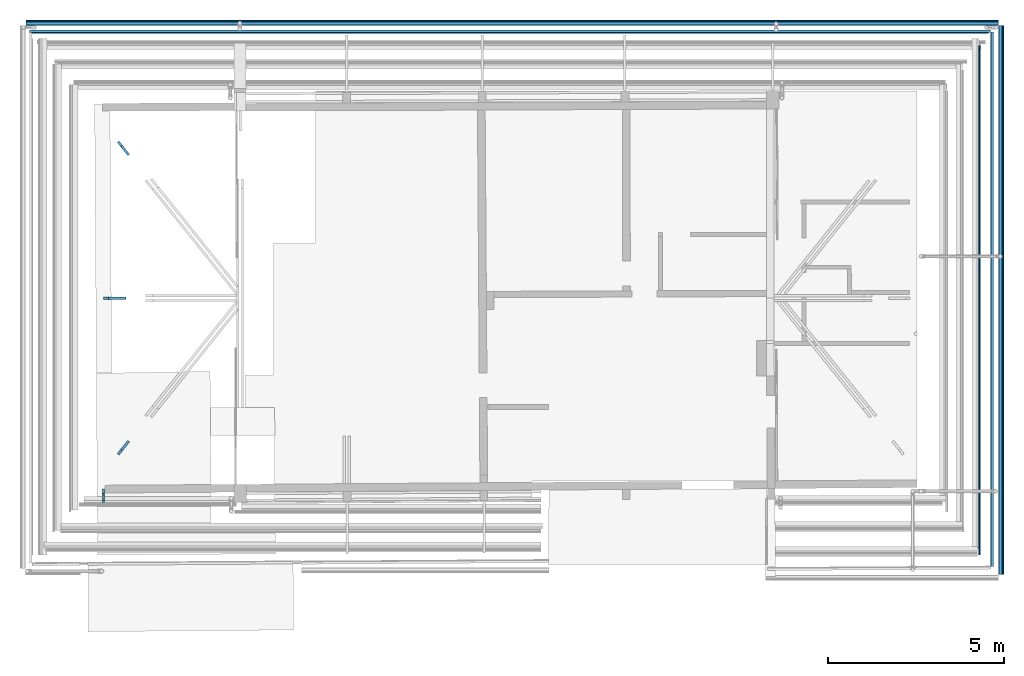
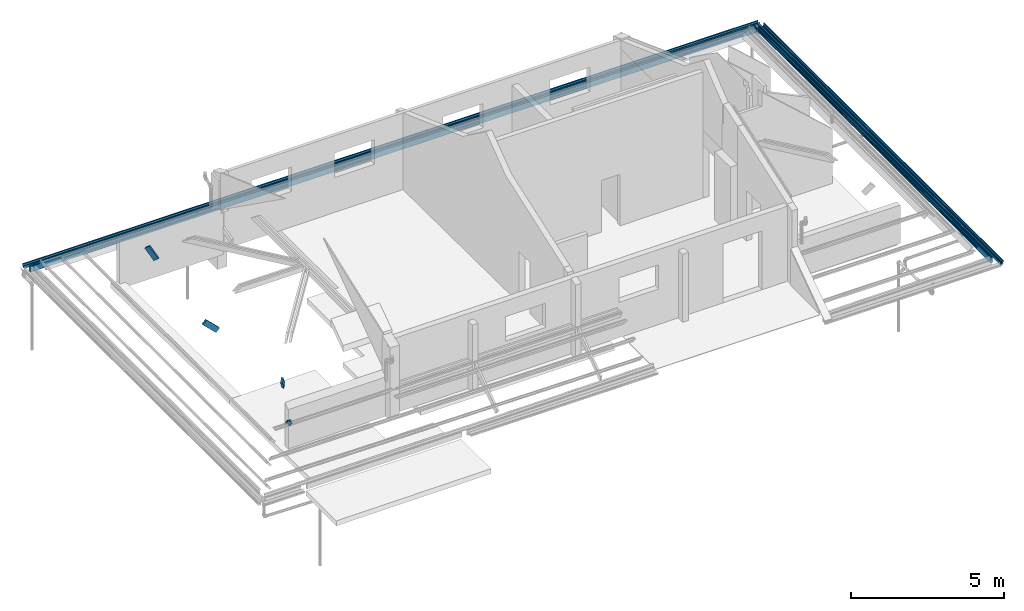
# One storey, part 6 of 15: 14 beams.
"""IFC2X3 building model written with IfcOpenShell, lengths in centimetres."""

from ifc_helpers import new_model, entity, si_unit, converted_unit, direction, frame, frame_2d, origin, place, context, subcontext, project, spatial, polyline, circle_curve, parameter, trimmed, segment, composite_curve, rectangle, outline, extrude, material, type_object, element, save


model = new_model("IFC2X3")

# Units and contexts
model_context = context("Model", 3, precision=0.001, world=frame((0.0, 0.0, 13090.0)), true_north=direction((6.123233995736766e-17, 1.0)))
body_context = subcontext(model_context, "Body", "Model", "MODEL_VIEW")
ifc_project = project(units=[si_unit("LENGTHUNIT", "METRE", prefix="CENTI"), si_unit("AREAUNIT", "SQUARE_METRE"), si_unit("VOLUMEUNIT", "CUBIC_METRE"), converted_unit("PLANEANGLEUNIT", "DEGREE", entity("IfcPlaneAngleMeasure", 0.017453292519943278), si_unit("PLANEANGLEUNIT", "RADIAN"), dimensions=[0, 0, 0, 0, 0, 0, 0])], contexts=[model_context])

# Site, building, storey
site_placement = place(None, origin())
site = spatial("IfcSite", under=ifc_project, at=site_placement, Name="Default", CompositionType="ELEMENT")
building_placement = place(site_placement, origin())
building = spatial("IfcBuilding", under=site, at=building_placement, Name="e 39 logements et 22 maisons relais", CompositionType="ELEMENT")
storey_placement = place(building_placement, frame((0.0, 0.0, 340.0)))
storey = spatial("IfcBuildingStorey", under=building, at=storey_placement, Name="R+1", CompositionType="ELEMENT", Elevation=339.99999999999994)

# Beams
ifc_material_1 = material(Name="Bois - Bois de construction de dimensions courantes")
beam_type_1 = type_object("IfcBeamType", Name="Poutre - Bois de construction de dimensions courantes:70 220", PredefinedType="BEAM")
beam_1_placement = place(storey_placement, frame((-570.9302602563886, -601.7941531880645, 121.56476762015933), z_axis=(0.0, 0.0, 1.0), x_axis=(-1.0, 0.0, 0.0)))
element("IfcBeam", 1, at=beam_1_placement, inside=storey, type_object=beam_type_1, material=ifc_material_1, Name="Poutre - Bois de construction de dimensions courantes:70 220", ObjectType="Poutre - Bois de construction de dimensions courantes:70 220", context=body_context, shape_type="SweptSolid", body=[
    extrude(rectangle(XDim=22.00000000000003, YDim=7.000000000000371, at=frame_2d((-2.7977620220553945e-14, -5.3290705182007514e-14), x_axis=(0.0, 1.0))), frame((726.5657698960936, -6.387732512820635, -8.955270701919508), z_axis=(1.0, 0.0, 0.0), x_axis=(0.0, -0.8141155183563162, 0.5807029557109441)), (0.0, 0.0, 1.0), 6.234676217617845),
])
beam_2_placement = place(storey_placement, frame((-570.9302602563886, -595.6053624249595, 125.9791891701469), z_axis=(0.0, 0.0, 1.0), x_axis=(-1.0, 0.0, 0.0)))
element("IfcBeam", 2, at=beam_2_placement, inside=storey, type_object=beam_type_1, material=ifc_material_1, Name="Poutre - Bois de construction de dimensions courantes:70 220", ObjectType="Poutre - Bois de construction de dimensions courantes:70 220", context=body_context, shape_type="SweptSolid", body=[
    extrude(rectangle(XDim=22.00000000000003, YDim=7.000000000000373, at=frame_2d((-6.017408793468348e-14, -7.993605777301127e-15), x_axis=(0.0, 1.0))), frame((726.5657698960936, -6.387732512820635, -8.955270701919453), z_axis=(1.0, 0.0, 0.0), x_axis=(0.0, -0.8141155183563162, 0.5807029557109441)), (0.0, 0.0, 1.0), 6.234676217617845),
])
beam_3_placement = place(storey_placement, frame((-570.9302602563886, -581.995353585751, 115.30480714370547), z_axis=(0.0, 0.0, 1.0), x_axis=(-1.0, 0.0, 0.0)))
element("IfcBeam", 3, at=beam_3_placement, inside=storey, type_object=beam_type_1, material=ifc_material_1, Name="Poutre - Bois de construction de dimensions courantes:70 220", ObjectType="Poutre - Bois de construction de dimensions courantes:70 220", context=body_context, shape_type="SweptSolid", body=[
    extrude(rectangle(XDim=22.00000000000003, YDim=7.000000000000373, at=frame_2d((-6.017408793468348e-14, -7.993605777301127e-15), x_axis=(0.0, 1.0))), frame((726.5657698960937, -6.387732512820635, -8.955270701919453), z_axis=(1.0, 0.0, 0.0), x_axis=(0.0, -0.8141155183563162, 0.5807029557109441)), (0.0, 0.0, 1.0), 6.234676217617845),
])
beam_4_placement = place(storey_placement, frame((-570.9302602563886, -602.2367578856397, 121.56476762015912), z_axis=(0.0, 0.0, 1.0), x_axis=(-1.0, 0.0, 0.0)))
element("IfcBeam", 4, at=beam_4_placement, inside=storey, type_object=beam_type_1, material=ifc_material_1, Name="Poutre - Bois de construction de dimensions courantes:70 220", ObjectType="Poutre - Bois de construction de dimensions courantes:70 220", context=body_context, shape_type="SweptSolid", body=[
    extrude(rectangle(XDim=22.00000000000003, YDim=7.000000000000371, at=frame_2d((-2.7977620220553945e-14, -5.3290705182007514e-14), x_axis=(0.0, 1.0))), frame((726.5657698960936, -6.387732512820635, -8.955270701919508), z_axis=(1.0, 0.0, 0.0), x_axis=(0.0, -0.8141155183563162, 0.5807029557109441)), (0.0, 0.0, 1.0), 6.234676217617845),
])
beam_5_placement = place(storey_placement, frame((-570.8902322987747, 736.1252742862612, 4.799999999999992), z_axis=(0.0008384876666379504, 0.0, 0.9999996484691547), x_axis=(-0.9999996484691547, 0.0, 0.0008384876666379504)))
element("IfcBeam", 5, at=beam_5_placement, inside=storey, type_object=beam_type_1, material=ifc_material_1, Name="Poutre - Bois de construction de dimensions courantes:70 220", ObjectType="Poutre - Bois de construction de dimensions courantes:70 220", context=body_context, shape_type="SweptSolid", body=[
    extrude(rectangle(XDim=21.99999999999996, YDim=7.00000000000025, at=frame_2d((0.0, 5.417888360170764e-14), x_axis=(1.0, 0.0))), frame((-1793.363575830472, 0.0, -11.0), z_axis=(1.0, 0.0, 0.0), x_axis=(0.0, 0.0, -1.0)), (0.0, 0.0, 1.0), 2734.228681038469),
])
beam_6_placement = place(storey_placement, frame((1228.4301309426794, 514.0076677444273, 4.661200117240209), z_axis=(0.0, -1.3834806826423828e-07, 1.0), x_axis=(0.0, -1.0, -1.3834806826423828e-07)))
element("IfcBeam", 6, at=beam_6_placement, inside=storey, type_object=beam_type_1, material=ifc_material_1, Name="Poutre - Bois de construction de dimensions courantes:70 220", ObjectType="Poutre - Bois de construction de dimensions courantes:70 220", context=body_context, shape_type="SweptSolid", body=[
    extrude(rectangle(XDim=21.99999999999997, YDim=7.000000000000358, at=frame_2d((0.0, -1.0835776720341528e-13), x_axis=(1.0, 0.0))), frame((-219.71760843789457, 0.0, -11.0), z_axis=(1.0, 0.0, 0.0), x_axis=(0.0, 0.0, -1.0)), (0.0, 0.0, 1.0), 1519.9945391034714),
])
beam_type_2 = type_object("IfcBeamType", Name="Poutre - Bois de construction de dimensions courantes:70 200", PredefinedType="BEAM")
beam_7_placement = place(storey_placement, frame((-1161.0914433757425, -22.897903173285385, 53.46625716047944), z_axis=(0.6946583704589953, 0.0, 0.7193398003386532), x_axis=(-0.7193398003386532, 0.0, 0.6946583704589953)))
element("IfcBeam", 7, at=beam_7_placement, inside=storey, type_object=beam_type_2, material=ifc_material_1, Name="Poutre - Bois de construction de dimensions courantes:70 200", ObjectType="Poutre - Bois de construction de dimensions courantes:70 200", context=body_context, shape_type="SweptSolid", body=[
    extrude(rectangle(XDim=19.999999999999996, YDim=7.000000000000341, at=frame_2d((0.0, 1.5543122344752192e-15), x_axis=(1.0, 0.0))), frame((105.51477772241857, 0.0, -10.0), z_axis=(1.0, 0.0, 0.0), x_axis=(0.0, 0.0, -1.0)), (0.0, 0.0, 1.0), 69.11468611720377),
])
beam_8_placement = place(storey_placement, frame((-1183.646908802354, 327.2610634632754, 54.634161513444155), z_axis=(0.9266041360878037, 0.19068400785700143, 0.3241055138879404), x_axis=(-0.3760382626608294, 0.4698686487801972, 0.7986355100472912)))
element("IfcBeam", 8, at=beam_8_placement, inside=storey, type_object=beam_type_2, material=ifc_material_1, Name="Poutre - Bois de construction de dimensions courantes:70 200", ObjectType="Poutre - Bois de construction de dimensions courantes:70 200", context=body_context, shape_type="SweptSolid", body=[
    extrude(rectangle(XDim=20.000000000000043, YDim=7.000000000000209, at=frame_2d((2.0294876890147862e-13, -9.059419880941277e-14), x_axis=(0.0, 1.0))), frame((121.39243448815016, -8.425956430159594, -5.385467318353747), z_axis=(1.0, 0.0, 0.0), x_axis=(0.0, -0.5385467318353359, 0.8425956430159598)), (0.0, 0.0, 1.0), 53.237029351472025),
])
beam_9_placement = place(storey_placement, frame((-1183.6469088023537, -373.0568698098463, 54.634161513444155), z_axis=(0.9266041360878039, -0.19068400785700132, 0.32410551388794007), x_axis=(-0.37603826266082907, -0.4698686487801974, 0.7986355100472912)))
element("IfcBeam", 9, at=beam_9_placement, inside=storey, type_object=beam_type_2, material=ifc_material_1, Name="Poutre - Bois de construction de dimensions courantes:70 200", ObjectType="Poutre - Bois de construction de dimensions courantes:70 200", context=body_context, shape_type="SweptSolid", body=[
    extrude(rectangle(XDim=20.000000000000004, YDim=7.000000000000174, at=frame_2d((3.375077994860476e-14, 3.397282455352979e-14), x_axis=(1.0, 0.0))), frame((121.39243448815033, 8.425956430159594, -5.3854673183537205), z_axis=(1.0, 0.0, 0.0), x_axis=(0.0, -0.8425956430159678, 0.5385467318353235)), (0.0, 0.0, 1.0), 53.237029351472),
])
ifc_material_2 = material(Name="neuf")
beam_type_3 = type_object("IfcBeamType", Name="gouttiere ALU G400:gouttiere ALU G400", PredefinedType="BEAM")
beam_10_placement = place(storey_placement, frame((-570.9307866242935, 752.8861713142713, 24.239842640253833), z_axis=(0.0, 0.0, 1.0), x_axis=(-1.0, 0.0, 0.0)))
element("IfcBeam", 10, at=beam_10_placement, inside=storey, type_object=beam_type_3, material=ifc_material_2, Name="gouttiere ALU G400:gouttiere ALU G400", ObjectType="gouttiere ALU G400:gouttiere ALU G400", context=body_context, shape_type="SweptSolid", body=[
    extrude(outline(composite_curve([segment(polyline([(-4.596964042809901, -5.1836380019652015), (-4.41006406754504, -5.1836380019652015)]), True, "CONTINUOUS"), segment(trimmed(circle_curve(frame_2d((-4.410064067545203, -4.392159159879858), x_axis=(0.0, -1.0)), 0.7914788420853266), [parameter(0.0)], [parameter(89.9999999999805)], True, "PARAMETER"), True, "CONTINUOUS"), segment(polyline([(-3.61858522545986, -4.3921591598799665), (-3.61858522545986, -3.633036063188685)]), True, "CONTINUOUS"), segment(trimmed(circle_curve(frame_2d((-2.828714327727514, -3.6330360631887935), x_axis=(-1.0, 0.0)), 0.7898708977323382), [parameter(284.61974875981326)], [parameter(0.0)], True, "PARAMETER"), False, "CONTINUOUS"), segment(polyline([(-3.02808002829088, -2.868739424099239), (3.0018920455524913, -1.925095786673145)]), True, "CONTINUOUS"), segment(trimmed(circle_curve(frame_2d((2.6511667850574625, -0.5488704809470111), x_axis=(0.24695261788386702, -0.9690275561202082)), 1.4202127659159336), [parameter(0.0)], [parameter(75.70274320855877)], True, "PARAMETER"), True, "CONTINUOUS"), segment(trimmed(circle_curve(frame_2d((4.738394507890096, -0.5488704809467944), x_axis=(-1.0, 0.0)), 0.6670149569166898), [parameter(270.00000000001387)], [parameter(0.0)], True, "PARAMETER"), False, "CONTINUOUS"), segment(polyline([(4.738394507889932, 0.11814447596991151), (5.823944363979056, 0.11814447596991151)]), True, "CONTINUOUS"), segment(trimmed(circle_curve(frame_2d((5.604531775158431, 1.4672111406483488), x_axis=(0.16053097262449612, -0.9870308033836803)), 1.366792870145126), [parameter(0.0)], [parameter(80.76228289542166)], True, "PARAMETER"), True, "CONTINUOUS"), segment(polyline([(6.971324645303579, 1.4672111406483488), (6.971324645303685, 7.967211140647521)]), True, "CONTINUOUS"), segment(trimmed(circle_curve(frame_2d((4.482502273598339, 7.967211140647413), x_axis=(1.0, 0.0)), 2.4888223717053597), [parameter(0.0)], [parameter(79.98963375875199)], True, "PARAMETER"), True, "CONTINUOUS"), segment(polyline([(4.915125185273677, 10.418144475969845), (-6.028675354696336, 10.418144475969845)]), True, "CONTINUOUS"), segment(polyline([(-6.028675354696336, 10.418144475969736), (-6.028675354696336, 10.218144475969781)]), True, "CONTINUOUS"), segment(polyline([(-6.028675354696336, 10.21814447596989), (4.897239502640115, 10.21814447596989)]), True, "CONTINUOUS"), segment(trimmed(circle_curve(frame_2d((4.482502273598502, 7.967211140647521), x_axis=(0.18120114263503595, 0.9834460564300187)), 2.2888223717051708), [parameter(280.43973077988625)], [parameter(0.0)], True, "PARAMETER"), False, "CONTINUOUS"), segment(polyline([(6.771324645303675, 7.967211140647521), (6.771324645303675, 1.4672111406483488)]), True, "CONTINUOUS"), segment(trimmed(circle_curve(frame_2d((5.604531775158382, 1.4672111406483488), x_axis=(1.0, 0.0)), 1.166792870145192), [parameter(279.9999999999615)], [parameter(0.0)], True, "PARAMETER"), False, "CONTINUOUS"), segment(polyline([(5.807143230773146, 0.3181444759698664), (4.738394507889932, 0.3181444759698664)]), True, "CONTINUOUS"), segment(trimmed(circle_curve(frame_2d((4.738394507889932, -0.548870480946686), x_axis=(0.0, 1.0)), 0.8670149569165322), [parameter(0.0)], [parameter(90.00000000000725)], True, "PARAMETER"), True, "CONTINUOUS"), segment(trimmed(circle_curve(frame_2d((2.6511667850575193, -0.5488704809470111), x_axis=(1.0, 0.0)), 1.2202127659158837), [parameter(284.72375106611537)], [parameter(0.0)], True, "PARAMETER"), False, "CONTINUOUS"), segment(polyline([(2.9612947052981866, -1.7290144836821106), (-3.0684806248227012, -2.6724390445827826)]), True, "CONTINUOUS"), segment(trimmed(circle_curve(frame_2d((-2.8289568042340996, -3.6331166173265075), x_axis=(-0.24192189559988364, 0.9702957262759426)), 0.99008739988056), [parameter(0.0)], [parameter(75.99999999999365)], True, "PARAMETER"), True, "CONTINUOUS"), segment(polyline([(-3.8190442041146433, -3.633116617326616), (-3.8190442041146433, -4.391273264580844)]), True, "CONTINUOUS"), segment(trimmed(circle_curve(frame_2d((-4.409626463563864, -4.391273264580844), x_axis=(1.0, 0.0)), 0.5905822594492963), [parameter(269.9999999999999)], [parameter(0.0)], True, "PARAMETER"), False, "CONTINUOUS"), segment(polyline([(-4.409626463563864, -4.98185552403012), (-4.59629378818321, -4.98185552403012)]), True, "CONTINUOUS"), segment(trimmed(circle_curve(frame_2d((-4.59629378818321, -4.451936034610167), x_axis=(0.0, -1.0)), 0.5299194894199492), [parameter(269.99999999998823)], [parameter(0.0)], True, "PARAMETER"), False, "CONTINUOUS"), segment(polyline([(-5.1262132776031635, -4.451936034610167), (-5.30863358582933, -2.7163227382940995)]), True, "CONTINUOUS"), segment(polyline([(-5.308633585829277, -2.7163227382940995), (-5.509735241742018, -2.7163227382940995)]), True, "CONTINUOUS"), segment(polyline([(-5.509735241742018, -2.716322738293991), (-5.324785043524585, -4.455817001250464)]), True, "CONTINUOUS"), segment(trimmed(circle_curve(frame_2d((-4.5969640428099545, -4.455817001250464), x_axis=(-1.0, 0.0)), 0.7278210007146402), [parameter(0.0)], [parameter(90.00000000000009)], True, "PARAMETER"), True, "CONTINUOUS")], self_intersect=False)), frame((-1816.6374381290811, -10.218144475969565, -29.02867535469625), z_axis=(1.0, 0.0, 0.0), x_axis=(0.0, 0.0, -1.0)), (0.0, 0.0, 1.0), 2767.3712830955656),
])
beam_11_placement = place(storey_placement, frame((1246.1066515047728, 518.1068872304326, 15.934446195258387), z_axis=(0.0, 0.0, 1.0), x_axis=(0.0, -1.0, 0.0)))
element("IfcBeam", 11, at=beam_11_placement, inside=storey, type_object=beam_type_3, material=ifc_material_2, Name="gouttiere ALU G400:gouttiere ALU G400", ObjectType="gouttiere ALU G400:gouttiere ALU G400", context=body_context, shape_type="SweptSolid", body=[
    extrude(outline(composite_curve([segment(polyline([(-6.028675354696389, -10.418144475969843), (4.9151251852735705, -10.418144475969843)]), True, "CONTINUOUS"), segment(trimmed(circle_curve(frame_2d((4.482502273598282, -7.96721114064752), x_axis=(0.17382635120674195, -0.9847763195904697)), 2.4888223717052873), [parameter(0.0)], [parameter(79.98963375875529)], True, "PARAMETER"), True, "CONTINUOUS"), segment(polyline([(6.971324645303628, -7.96721114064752), (6.971324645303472, -1.4672111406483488)]), True, "CONTINUOUS"), segment(trimmed(circle_curve(frame_2d((5.604531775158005, -1.4672111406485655), x_axis=(1.0, 0.0)), 1.3667928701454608), [parameter(0.0)], [parameter(80.76228289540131)], True, "PARAMETER"), True, "CONTINUOUS"), segment(polyline([(5.823944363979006, -0.11814447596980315), (4.738394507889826, -0.11814447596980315)]), True, "CONTINUOUS"), segment(trimmed(circle_curve(frame_2d((4.738394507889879, 0.5488704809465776), x_axis=(0.0, -1.0)), 0.6670149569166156), [parameter(270.00000000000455)], [parameter(0.0)], True, "PARAMETER"), False, "CONTINUOUS"), segment(trimmed(circle_curve(frame_2d((2.6511667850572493, 0.5488704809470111), x_axis=(1.0, 0.0)), 1.420212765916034), [parameter(0.0)], [parameter(75.70274320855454)], True, "PARAMETER"), True, "CONTINUOUS"), segment(polyline([(3.001892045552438, 1.9250957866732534), (-3.0280800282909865, 2.868739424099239)]), True, "CONTINUOUS"), segment(trimmed(circle_curve(frame_2d((-2.8287143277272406, 3.633036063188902), x_axis=(-0.2524028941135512, -0.9676222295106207)), 0.789870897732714), [parameter(284.61974875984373)], [parameter(0.0)], True, "PARAMETER"), False, "CONTINUOUS"), segment(polyline([(-3.6185852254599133, 3.633036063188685), (-3.6185852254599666, 4.3921591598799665)]), True, "CONTINUOUS"), segment(trimmed(circle_curve(frame_2d((-4.410064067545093, 4.3921591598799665), x_axis=(1.0, 0.0)), 0.7914788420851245), [parameter(0.0)], [parameter(90.00000000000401)], True, "PARAMETER"), True, "CONTINUOUS"), segment(polyline([(-4.410064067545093, 5.183638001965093), (-4.596964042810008, 5.183638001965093)]), True, "CONTINUOUS"), segment(trimmed(circle_curve(frame_2d((-4.596964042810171, 4.455817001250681), x_axis=(0.0, 1.0)), 0.727821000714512), [parameter(0.0)], [parameter(90.00000000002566)], True, "PARAMETER"), True, "CONTINUOUS"), segment(polyline([(-5.324785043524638, 4.455817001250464), (-5.509735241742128, 2.716322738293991)]), True, "CONTINUOUS"), segment(polyline([(-5.509735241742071, 2.716322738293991), (-5.308633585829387, 2.716322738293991)]), True, "CONTINUOUS"), segment(polyline([(-5.308633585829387, 2.716322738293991), (-5.126213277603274, 4.451936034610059)]), True, "CONTINUOUS"), segment(trimmed(circle_curve(frame_2d((-4.596293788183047, 4.451936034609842), x_axis=(-1.0, 0.0)), 0.5299194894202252), [parameter(270.0000000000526)], [parameter(0.0)], True, "PARAMETER"), False, "CONTINUOUS"), segment(polyline([(-4.596293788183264, 4.98185552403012), (-4.409626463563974, 4.98185552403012)]), True, "CONTINUOUS"), segment(trimmed(circle_curve(frame_2d((-4.409626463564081, 4.391273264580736), x_axis=(0.0, 1.0)), 0.5905822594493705), [parameter(270.0000000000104)], [parameter(0.0)], True, "PARAMETER"), False, "CONTINUOUS"), segment(polyline([(-3.8190442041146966, 4.391273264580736), (-3.8190442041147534, 3.633116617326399)]), True, "CONTINUOUS"), segment(trimmed(circle_curve(frame_2d((-2.828956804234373, 3.633116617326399), x_axis=(-1.0, 0.0)), 0.990087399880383), [parameter(0.0)], [parameter(76.000000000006)], True, "PARAMETER"), True, "CONTINUOUS"), segment(polyline([(-3.0684806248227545, 2.6724390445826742), (2.96129470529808, 1.729014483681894)]), True, "CONTINUOUS"), segment(trimmed(circle_curve(frame_2d((2.651166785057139, 0.5488704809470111), x_axis=(0.2541588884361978, 0.9671624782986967)), 1.2202127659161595), [parameter(284.72375106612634)], [parameter(0.0)], True, "PARAMETER"), False, "CONTINUOUS"), segment(trimmed(circle_curve(frame_2d((4.738394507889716, 0.5488704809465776), x_axis=(-1.0, 0.0)), 0.8670149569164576), [parameter(0.0)], [parameter(90.00000000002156)], True, "PARAMETER"), True, "CONTINUOUS"), segment(polyline([(4.738394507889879, -0.31814447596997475), (5.80714323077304, -0.31814447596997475)]), True, "CONTINUOUS"), segment(trimmed(circle_curve(frame_2d((5.604531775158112, -1.4672111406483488), x_axis=(0.17364817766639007, 0.9848077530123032)), 1.1667928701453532), [parameter(279.9999999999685)], [parameter(0.0)], True, "PARAMETER"), False, "CONTINUOUS"), segment(polyline([(6.7713246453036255, -1.4672111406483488), (6.771324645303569, -7.96721114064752)]), True, "CONTINUOUS"), segment(trimmed(circle_curve(frame_2d((4.482502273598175, -7.96721114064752), x_axis=(1.0, 0.0)), 2.288822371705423), [parameter(280.4397307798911)], [parameter(0.0)], True, "PARAMETER"), False, "CONTINUOUS"), segment(polyline([(4.897239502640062, -10.21814447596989), (-6.028675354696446, -10.21814447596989)]), True, "CONTINUOUS"), segment(polyline([(-6.028675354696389, -10.21814447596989), (-6.028675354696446, -10.418144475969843)]), True, "CONTINUOUS")], self_intersect=False)), frame((-234.41838705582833, 10.218144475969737, -27.028675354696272), z_axis=(1.0, 0.0, 0.0), x_axis=(0.0, 0.0, -1.0)), (0.0, 0.0, 1.0), 1562.7207783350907),
])
beam_type_4 = type_object("IfcBeamType", Name="panne z:panne z", PredefinedType="BEAM")
beam_12_placement = place(storey_placement, frame((1204.5126508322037, 514.0076677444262, 53.01455921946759), z_axis=(0.0, 0.0, 1.0), x_axis=(0.0, -1.0, 0.0)))
element("IfcBeam", 12, at=beam_12_placement, inside=storey, type_object=beam_type_4, material=ifc_material_2, Name="panne z:panne z", ObjectType="panne z:panne z", context=body_context, shape_type="SweptSolid", body=[
    extrude(outline(composite_curve([segment(polyline([(0.29999999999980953, -3.0), (4.599999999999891, -3.0)]), True, "CONTINUOUS"), segment(trimmed(circle_curve(frame_2d((4.5999999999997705, -2.6000000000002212), x_axis=(0.0, -1.0)), 0.3999999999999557), [parameter(0.0)], [parameter(90.00000000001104)], True, "PARAMETER"), True, "CONTINUOUS"), segment(polyline([(5.0, -2.6000000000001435), (5.0, -1.0)]), True, "CONTINUOUS"), segment(polyline([(5.0, -1.0), (4.799999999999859, -1.0)]), True, "CONTINUOUS"), segment(polyline([(4.799999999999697, -1.0), (4.799999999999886, -2.600000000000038)]), True, "CONTINUOUS"), segment(trimmed(circle_curve(frame_2d((4.599999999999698, -2.6000000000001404), x_axis=(1.0, 0.0)), 0.2000000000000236), [parameter(270.0000000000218)], [parameter(0.0)], True, "PARAMETER"), False, "CONTINUOUS"), segment(polyline([(4.599999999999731, -2.800000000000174), (0.29999999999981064, -2.800000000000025)]), True, "CONTINUOUS"), segment(trimmed(circle_curve(frame_2d((0.2999999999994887, -2.600000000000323), x_axis=(0.0, -1.0)), 0.19999999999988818), [parameter(269.9999999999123)], [parameter(0.0)], True, "PARAMETER"), False, "CONTINUOUS"), segment(polyline([(0.0999999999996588, -2.6000000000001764), (0.0999999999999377, 2.599999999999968)]), True, "CONTINUOUS"), segment(trimmed(circle_curve(frame_2d((-0.3000000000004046, 2.5999999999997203), x_axis=(1.0, 0.0)), 0.4000000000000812), [parameter(0.0)], [parameter(89.99999999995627)], True, "PARAMETER"), True, "CONTINUOUS"), segment(polyline([(-0.3000000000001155, 3.0), (-4.600000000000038, 3.0)]), True, "CONTINUOUS"), segment(trimmed(circle_curve(frame_2d((-4.600000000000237, 2.600000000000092), x_axis=(0.0, 1.0)), 0.3999999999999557), [parameter(0.0)], [parameter(90.00000000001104)], True, "PARAMETER"), True, "CONTINUOUS"), segment(polyline([(-5.0, 2.6000000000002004), (-5.0, 1.0)]), True, "CONTINUOUS"), segment(polyline([(-5.0, 1.0), (-4.800000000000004, 1.0)]), True, "CONTINUOUS"), segment(polyline([(-4.8000000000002, 1.0), (-4.800000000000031, 2.6000000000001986)]), True, "CONTINUOUS"), segment(trimmed(circle_curve(frame_2d((-4.600000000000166, 2.600000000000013), x_axis=(-1.0, 0.0)), 0.2000000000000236), [parameter(270.0000000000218)], [parameter(0.0)], True, "PARAMETER"), False, "CONTINUOUS"), segment(polyline([(-4.600000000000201, 2.800000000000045), (-0.30000000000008, 2.8000000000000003)]), True, "CONTINUOUS"), segment(trimmed(circle_curve(frame_2d((-0.3000000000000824, 2.6000000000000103), x_axis=(0.0, 1.0)), 0.19999999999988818), [parameter(269.9999999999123)], [parameter(0.0)], True, "PARAMETER"), False, "CONTINUOUS"), segment(polyline([(-0.10000000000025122, 2.599999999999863), (-0.10000000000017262, -2.600000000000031)]), True, "CONTINUOUS"), segment(trimmed(circle_curve(frame_2d((0.29999999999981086, -2.600000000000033), x_axis=(-1.0, 0.0)), 0.4000000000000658), [parameter(0.0)], [parameter(89.99999999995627)], True, "PARAMETER"), True, "CONTINUOUS")], self_intersect=False)), frame((-181.44185692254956, -12.50098828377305, -13.883754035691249), z_axis=(1.0, 0.0, 0.0), x_axis=(0.0, -0.7431448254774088, 0.6691306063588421)), (0.0, 0.0, 1.0), 1449.2864646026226),
])
beam_type_5 = type_object("IfcBeamType", Name="panne z pente sup 35 deg 4:panne z pente sup 35 deg 4", PredefinedType="BEAM")
beam_13_placement = place(storey_placement, frame((-570.8890747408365, 733.4855486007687, 13.700000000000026), z_axis=(0.00167376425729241, 0.0, 0.9999985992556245), x_axis=(-0.9999985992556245, 0.0, 0.00167376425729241)))
element("IfcBeam", 13, at=beam_13_placement, inside=storey, type_object=beam_type_5, material=ifc_material_2, Name="panne z pente sup 35 deg 4:panne z pente sup 35 deg 4", ObjectType="panne z pente sup 35 deg 4:panne z pente sup 35 deg 4", context=body_context, shape_type="SweptSolid", body=[
    extrude(outline(composite_curve([segment(polyline([(2.8830245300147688, -4.745698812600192), (4.483024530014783, -4.7456988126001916)]), True, "CONTINUOUS"), segment(trimmed(circle_curve(frame_2d((4.48302453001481, -4.345698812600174), x_axis=(0.0, -1.0)), 0.40000000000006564), [parameter(0.0)], [parameter(89.99999999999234)], True, "PARAMETER"), True, "CONTINUOUS"), segment(polyline([(4.883024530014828, -4.345698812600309), (4.88302453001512, -0.04569881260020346)]), True, "CONTINUOUS"), segment(trimmed(circle_curve(frame_2d((4.4830245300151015, -0.045698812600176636), x_axis=(1.0, 0.0)), 0.4000000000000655), [parameter(0.0)], [parameter(89.99999999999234)], True, "PARAMETER"), True, "CONTINUOUS"), segment(polyline([(4.483024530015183, 0.3543011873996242), (-2.9375481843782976, 0.35430118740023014)]), True, "CONTINUOUS"), segment(trimmed(circle_curve(frame_2d((-2.871545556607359, 0.6467801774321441), x_axis=(-0.2201307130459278, -0.9754703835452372)), 0.2998337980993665), [parameter(317.71671051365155)], [parameter(0.0)], True, "PARAMETER"), False, "CONTINUOUS"), segment(polyline([(-3.117155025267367, 0.47480257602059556), (-5.655219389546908, 4.099534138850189)]), True, "CONTINUOUS"), segment(trimmed(circle_curve(frame_2d((-5.564903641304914, 4.151677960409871), x_axis=(-0.8660254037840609, -0.5000000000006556)), 0.10428764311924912), [parameter(239.9999999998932)], [parameter(0.0)], True, "PARAMETER"), False, "CONTINUOUS"), segment(polyline([(-5.564903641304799, 4.255965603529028), (-3.9649036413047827, 4.255965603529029)]), True, "CONTINUOUS"), segment(polyline([(-3.9649036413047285, 4.255965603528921), (-3.964903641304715, 4.455965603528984)]), True, "CONTINUOUS"), segment(polyline([(-3.964903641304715, 4.455965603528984), (-5.5649036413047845, 4.4559656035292)]), True, "CONTINUOUS"), segment(trimmed(circle_curve(frame_2d((-5.564903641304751, 4.151677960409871), x_axis=(0.0, 1.0)), 0.30428764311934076), [parameter(0.0)], [parameter(122.0734653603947)], True, "PARAMETER"), True, "CONTINUOUS"), segment(polyline([(-5.822747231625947, 3.9900993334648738), (-3.280985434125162, 0.3600872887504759)]), True, "CONTINUOUS"), segment(trimmed(circle_curve(frame_2d((-2.871545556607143, 0.6467801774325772), x_axis=(-0.8191520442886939, -0.5735764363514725)), 0.499833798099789), [parameter(0.0)], [parameter(45.15888128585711)], True, "PARAMETER"), True, "CONTINUOUS"), segment(polyline([(-2.9569754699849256, 0.1543011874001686), (4.483024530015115, 0.1543011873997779)]), True, "CONTINUOUS"), segment(trimmed(circle_curve(frame_2d((4.4830245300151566, -0.04569881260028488), x_axis=(0.0, 1.0)), 0.2000000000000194), [parameter(270.0000000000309)], [parameter(0.0)], True, "PARAMETER"), False, "CONTINUOUS"), segment(polyline([(4.683024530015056, -0.045698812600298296), (4.683024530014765, -4.345698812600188)]), True, "CONTINUOUS"), segment(trimmed(circle_curve(frame_2d((4.483024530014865, -4.345698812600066), x_axis=(1.0, 0.0)), 0.20000000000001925), [parameter(270.0000000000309)], [parameter(0.0)], True, "PARAMETER"), False, "CONTINUOUS"), segment(polyline([(4.483024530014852, -4.545698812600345), (2.883024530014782, -4.545698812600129)]), True, "CONTINUOUS"), segment(polyline([(2.883024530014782, -4.545698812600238), (2.8830245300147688, -4.745698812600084)]), True, "CONTINUOUS")], self_intersect=False)), frame((-1788.1851891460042, -0.2543011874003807, -2.999409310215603), z_axis=(1.0, 0.0, 0.0), x_axis=(0.0, 0.0, -1.0)), (0.0, 0.0, 1.0), 2722.02444325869),
])
beam_type_6 = type_object("IfcBeamType", Name="panne z pente sup 42 deg4:panne z pente sup 42 deg4", PredefinedType="BEAM")
beam_14_placement = place(storey_placement, frame((1226.4066515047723, 514.007667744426, 29.57568743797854), z_axis=(0.0, 0.0, 1.0), x_axis=(0.0, -1.0, 0.0)))
element("IfcBeam", 14, at=beam_14_placement, inside=storey, type_object=beam_type_6, material=ifc_material_2, Name="panne z pente sup 42 deg4:panne z pente sup 42 deg4", ObjectType="panne z pente sup 42 deg4:panne z pente sup 42 deg4", context=body_context, shape_type="SweptSolid", body=[
    extrude(outline(composite_curve([segment(polyline([(-5.766814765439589, -4.320735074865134), (-4.1668147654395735, -4.320735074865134)]), True, "CONTINUOUS"), segment(polyline([(-4.1668147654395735, -4.320735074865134), (-4.1668147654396, -4.12073507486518)]), True, "CONTINUOUS"), segment(polyline([(-4.1668147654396, -4.120735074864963), (-5.766814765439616, -4.120735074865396)]), True, "CONTINUOUS"), segment(trimmed(circle_curve(frame_2d((-5.76681476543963, -4.016447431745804), x_axis=(0.0, -1.0)), 0.10428764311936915), [parameter(244.99705808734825)], [parameter(0.0)], True, "PARAMETER"), False, "CONTINUOUS"), segment(polyline([(-5.861329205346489, -3.9723687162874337), (-2.719847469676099, -0.48339978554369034)]), True, "CONTINUOUS"), segment(trimmed(circle_curve(frame_2d((-2.5651423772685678, -0.6336444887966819), x_axis=(-0.7173726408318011, 0.6966896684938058)), 0.21565513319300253), [parameter(324.6609117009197)], [parameter(0.0)], True, "PARAMETER"), False, "CONTINUOUS"), segment(polyline([(-2.6044383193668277, -0.4215997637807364), (4.456370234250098, -0.4215997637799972)]), True, "CONTINUOUS"), segment(trimmed(circle_curve(frame_2d((4.456370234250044, -0.021599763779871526), x_axis=(0.0, -1.0)), 0.3999999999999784), [parameter(0.0)], [parameter(90.00000000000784)], True, "PARAMETER"), True, "CONTINUOUS"), segment(polyline([(4.85637023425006, -0.021599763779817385), (4.856370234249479, 4.2784002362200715)]), True, "CONTINUOUS"), segment(trimmed(circle_curve(frame_2d((4.456370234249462, 4.278400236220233), x_axis=(1.0, 0.0)), 0.39999999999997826), [parameter(0.0)], [parameter(90.00000000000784)], True, "PARAMETER"), True, "CONTINUOUS"), segment(polyline([(4.456370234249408, 4.678400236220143), (2.8563702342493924, 4.6784002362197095)]), True, "CONTINUOUS"), segment(polyline([(2.8563702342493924, 4.678400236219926), (2.8563702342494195, 4.478400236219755)]), True, "CONTINUOUS"), segment(polyline([(2.8563702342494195, 4.478400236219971), (4.456370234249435, 4.478400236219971)]), True, "CONTINUOUS"), segment(trimmed(circle_curve(frame_2d((4.4563702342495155, 4.278400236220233), x_axis=(0.0, 1.0)), 0.19999999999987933), [parameter(269.99999999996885)], [parameter(0.0)], True, "PARAMETER"), False, "CONTINUOUS"), segment(polyline([(4.656370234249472, 4.278400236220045), (4.656370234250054, -0.021599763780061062)]), True, "CONTINUOUS"), segment(trimmed(circle_curve(frame_2d((4.456370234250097, -0.021599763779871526), x_axis=(1.0, 0.0)), 0.19999999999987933), [parameter(269.99999999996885)], [parameter(0.0)], True, "PARAMETER"), False, "CONTINUOUS"), segment(polyline([(4.4563702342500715, -0.22159976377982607), (-2.6198080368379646, -0.22159976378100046)]), True, "CONTINUOUS"), segment(trimmed(circle_curve(frame_2d((-2.5651423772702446, -0.6336444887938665), x_axis=(-0.1315168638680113, 0.9913139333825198)), 0.41565513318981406), [parameter(0.0)], [parameter(38.88549025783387)], True, "PARAMETER"), True, "CONTINUOUS"), segment(polyline([(-2.8663618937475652, -0.3472252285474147), (-6.024658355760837, -3.854868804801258)]), True, "CONTINUOUS"), segment(trimmed(circle_curve(frame_2d((-5.766814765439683, -4.016447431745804), x_axis=(-0.8473679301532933, 0.5310062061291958)), 0.30428764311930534), [parameter(0.0)], [parameter(122.07346536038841)], True, "PARAMETER"), True, "CONTINUOUS")], self_intersect=False)), frame((-218.51760654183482, 0.32159976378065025, -19.72606360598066), z_axis=(1.0, 0.0, 0.0), x_axis=(0.0, 0.0, -1.0)), (0.0, 0.0, 1.0), 1518.7945341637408),
])

save(model, "model.ifc")
